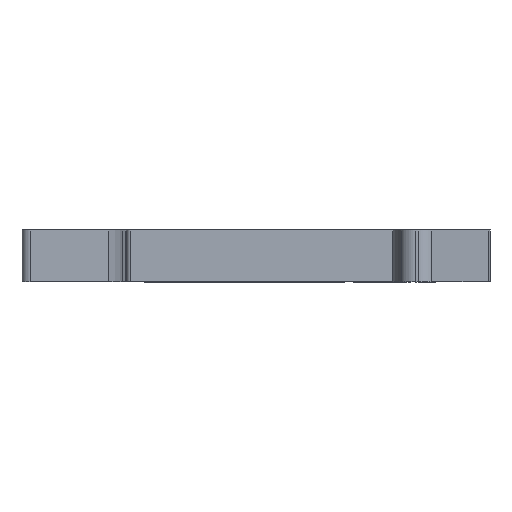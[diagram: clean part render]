
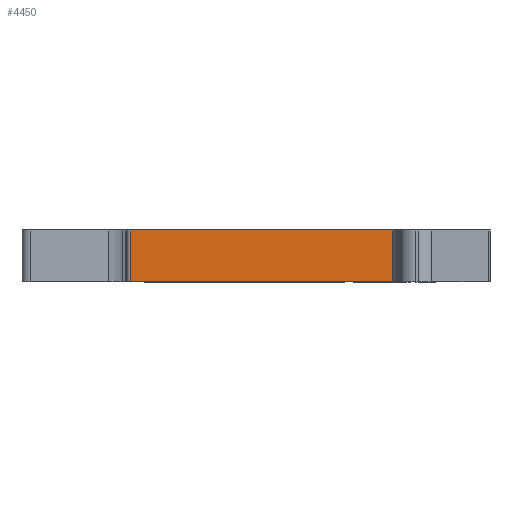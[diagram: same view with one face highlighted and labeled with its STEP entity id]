
A CAD part, front view. The second image highlights one B-rep face of the part: STEP entity #4450.
In plain terms, the highlighted planar face has unit normal (0, -1, 0).
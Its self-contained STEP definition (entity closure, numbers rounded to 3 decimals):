
#4450=ADVANCED_FACE('',(#9606),#7412,.T.);
#7412=PLANE('',#60680);
#9606=FACE_OUTER_BOUND('',#12613,.T.);
#12613=EDGE_LOOP('',(#16634,#16635,#16636,#16637));
#16634=ORIENTED_EDGE('',*,*,#38675,.T.);
#16635=ORIENTED_EDGE('',*,*,#39125,.T.);
#16636=ORIENTED_EDGE('',*,*,#39127,.T.);
#16637=ORIENTED_EDGE('',*,*,#39128,.F.);
#33042=VERTEX_POINT('',#81651);
#33043=VERTEX_POINT('',#81653);
#33386=VERTEX_POINT('',#82666);
#33387=VERTEX_POINT('',#82670);
#38675=EDGE_CURVE('',#33043,#33042,#47093,.T.);
#39125=EDGE_CURVE('',#33042,#33386,#47361,.T.);
#39127=EDGE_CURVE('',#33386,#33387,#47362,.T.);
#39128=EDGE_CURVE('',#33043,#33387,#47363,.T.);
#47093=LINE('',#81652,#53789);
#47361=LINE('',#82665,#54057);
#47362=LINE('',#82669,#54058);
#47363=LINE('',#82671,#54059);
#53789=VECTOR('',#65431,1.);
#54057=VECTOR('',#66247,1.);
#54058=VECTOR('',#66252,1.);
#54059=VECTOR('',#66253,1.);
#60680=AXIS2_PLACEMENT_3D('',#82672,#66254,#66255);
#65431=DIRECTION('',(-1.,0.,0.));
#66247=DIRECTION('',(0.,0.,-1.));
#66252=DIRECTION('',(1.,0.,0.));
#66253=DIRECTION('',(0.,0.,-1.));
#66254=DIRECTION('',(0.,-1.,0.));
#66255=DIRECTION('',(-1.,0.,0.));
#81651=CARTESIAN_POINT('',(13.045,6.,0.));
#81652=CARTESIAN_POINT('',(45.596,6.,0.));
#81653=CARTESIAN_POINT('',(45.596,6.,0.));
#82665=CARTESIAN_POINT('',(13.045,6.,0.));
#82666=CARTESIAN_POINT('',(13.045,6.,-6.2));
#82669=CARTESIAN_POINT('',(13.045,6.,-6.2));
#82670=CARTESIAN_POINT('',(45.596,6.,-6.2));
#82671=CARTESIAN_POINT('',(45.596,6.,0.));
#82672=CARTESIAN_POINT('',(46.441,6.,0.186));
